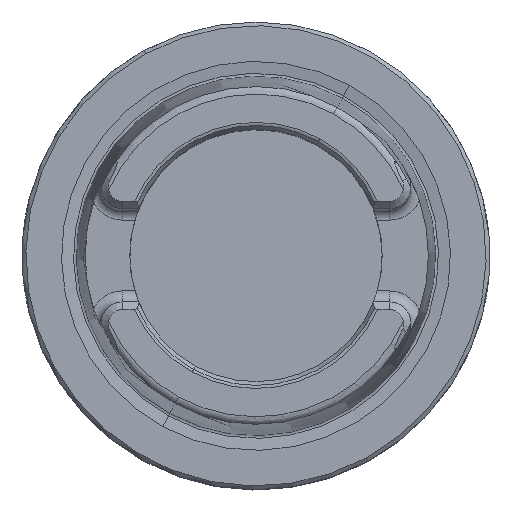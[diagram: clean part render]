
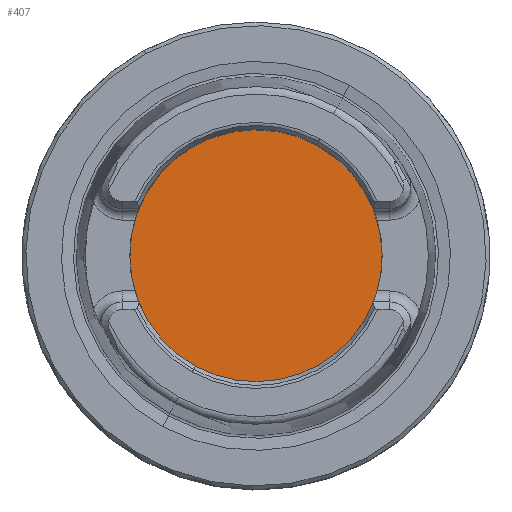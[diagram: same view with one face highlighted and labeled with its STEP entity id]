
A CAD part, top view. The second image highlights one B-rep face of the part: STEP entity #407.
In plain terms, the highlighted planar face has unit normal (0, 0, 1).
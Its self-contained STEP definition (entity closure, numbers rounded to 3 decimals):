
#339=AXIS2_PLACEMENT_3D('Circle Axis2P3D',#337,#338,$) ;
#396=AXIS2_PLACEMENT_3D('Plane Axis2P3D',#393,#394,#395) ;
#400=AXIS2_PLACEMENT_3D('Circle Axis2P3D',#398,#399,$) ;
#334=CARTESIAN_POINT('Vertex',(8.15,14.919,-10.)) ;
#337=CARTESIAN_POINT('Axis2P3D Location',(0.,0.,-10.)) ;
#341=CARTESIAN_POINT('Vertex',(-8.15,-14.919,-10.)) ;
#393=CARTESIAN_POINT('Axis2P3D Location',(0.,-15.75,-10.)) ;
#398=CARTESIAN_POINT('Axis2P3D Location',(0.,0.,-10.)) ;
#338=DIRECTION('Axis2P3D Direction',(0.,0.,-1.)) ;
#394=DIRECTION('Axis2P3D Direction',(0.,0.,-1.)) ;
#395=DIRECTION('Axis2P3D XDirection',(-1.,0.,0.)) ;
#399=DIRECTION('Axis2P3D Direction',(0.,0.,-1.)) ;
#404=ORIENTED_EDGE('',*,*,#343,.F.) ;
#405=ORIENTED_EDGE('',*,*,#402,.F.) ;
#407=ADVANCED_FACE('NO_CUT',(#406),#397,.F.) ;
#340=CIRCLE('generated circle',#339,17.) ;
#401=CIRCLE('generated circle',#400,17.) ;
#343=EDGE_CURVE('',#335,#342,#340,.T.) ;
#402=EDGE_CURVE('',#342,#335,#401,.T.) ;
#403=EDGE_LOOP('',(#404,#405)) ;
#406=FACE_OUTER_BOUND('',#403,.T.) ;
#397=PLANE('',#396) ;
#335=VERTEX_POINT('',#334) ;
#342=VERTEX_POINT('',#341) ;
